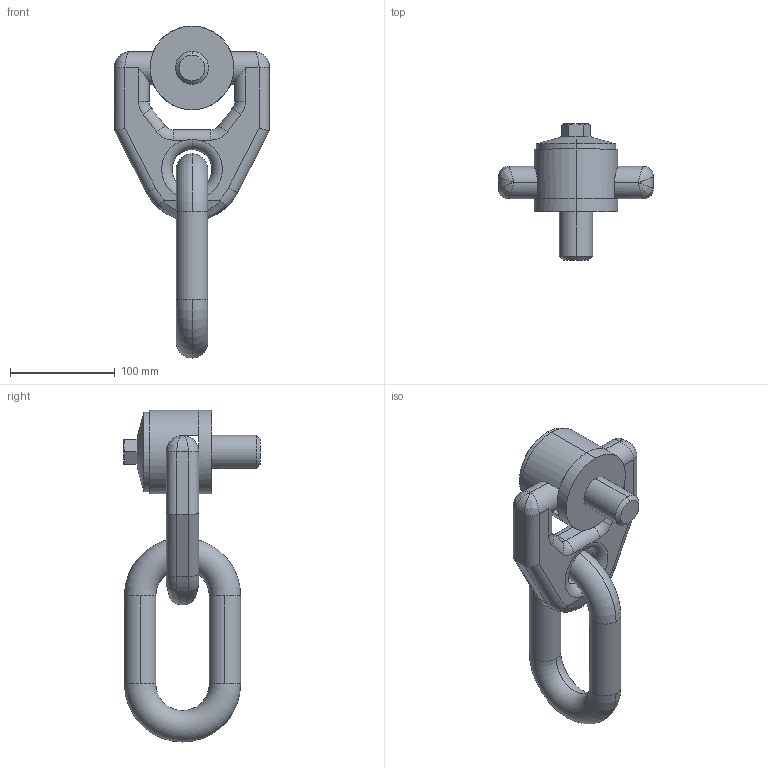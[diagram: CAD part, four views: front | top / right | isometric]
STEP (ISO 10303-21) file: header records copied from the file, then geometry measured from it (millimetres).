
FILE_DESCRIPTION (( 'STEP AP203' ), '1' );
FILE_NAME ('63150.W0325.step', '2013-12-13T11:56:09', ( 'User' ), ( '' ), 'SwSTEP 2.0', 'SolidWorks 2009', '' );
FILE_SCHEMA (( 'CONFIG_CONTROL_DESIGN' ));
Length unit declared in the file: millimetre
Products named in the file (4): 63150.W0325; Part1_63150.W0325; Part2D; Part3_63150.W0325
Assembly tree (3 placements, depth 2):
  63150.W0325
    Part3_63150.W0325
    Part1_63150.W0325
    Part2D
Bounding box: 148 x 130 x 317 mm (x, y, z)
Volume: 998792.4 mm3; surface area: 125094.2 mm2
Topology: 3 solids, 3 shells, 120 faces, 298 edges, 182 vertices
Faces by surface type: cylinder 44, plane 34, torus 24, cone 10, bspline 8
Entity records: 5344 total; most frequent: CARTESIAN_POINT 2090, DIRECTION 622, ORIENTED_EDGE 596, EDGE_CURVE 298, AXIS2_PLACEMENT_3D 250, VERTEX_POINT 182, CIRCLE 132, EDGE_LOOP 124
